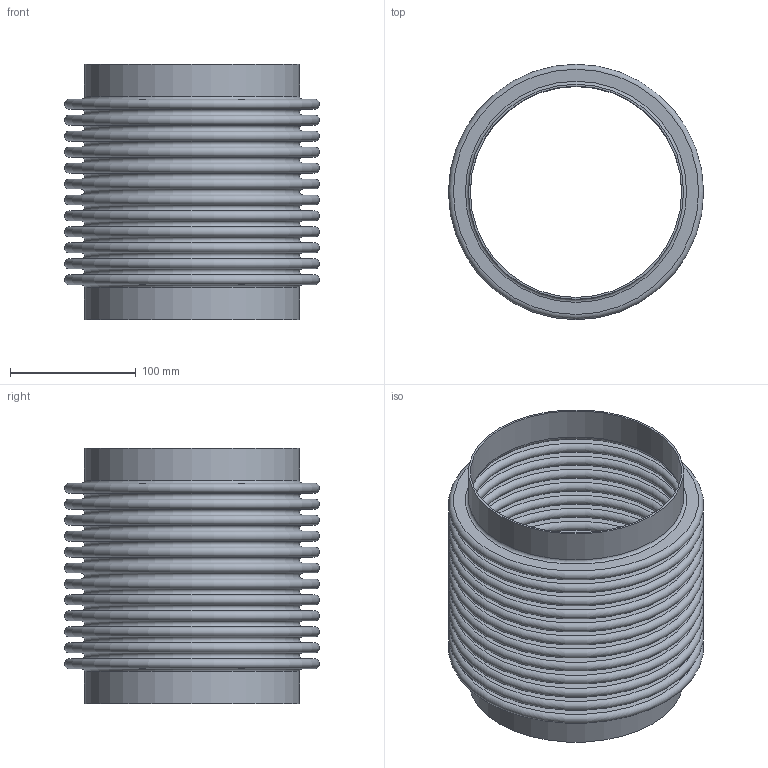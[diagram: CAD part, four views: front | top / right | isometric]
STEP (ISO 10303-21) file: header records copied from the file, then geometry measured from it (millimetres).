
FILE_DESCRIPTION(/* description */ ('STOCK BELLOWS: U.S-6-12-300L, 6.625 I.D., 8.000 O.D., 2 PLY, 22 GA (0.030 THICK), 12 CONS., 0.500 PITCH, 1.000 TANGENT. '),/* implementation_level */ '2;1');
FILE_NAME(/* name */ 'STOCK BELLOW - US-6-12-300L.stp',/* time_stamp */ '2026-07-21T13:27:10-05:00',/* author */ ('KennethB'),/* organization */ (''),/* preprocessor_version */ 'ST-DEVELOPER v20.1',/* originating_system */ 'Autodesk Inventor 2026',/* authorisation */ '');
FILE_SCHEMA (('AUTOMOTIVE_DESIGN { 1 0 10303 214 3 1 1 }'));
Length unit declared in the file: inch
Products named in the file (1): STOCK BELLOW - US-6-12-300L
Bounding box: 203.2 x 203.2 x 203.2 mm (x, y, z)
Volume: 458823.4 mm3; surface area: 607008.2 mm2
Topology: 3 solids, 3 shells, 108 faces, 162 edges, 109 vertices
Faces by surface type: plane 54, torus 50, cylinder 4
Full cylindrical faces by diameter (mm): 168.275 x2, 171.323 x2
Entity records: 2550 total; most frequent: DIRECTION 538, CARTESIAN_POINT 380, ORIENTED_EDGE 324, AXIS2_PLACEMENT_3D 267, EDGE_LOOP 162, EDGE_CURVE 162, CIRCLE 158, FACE_OUTER_BOUND 108
